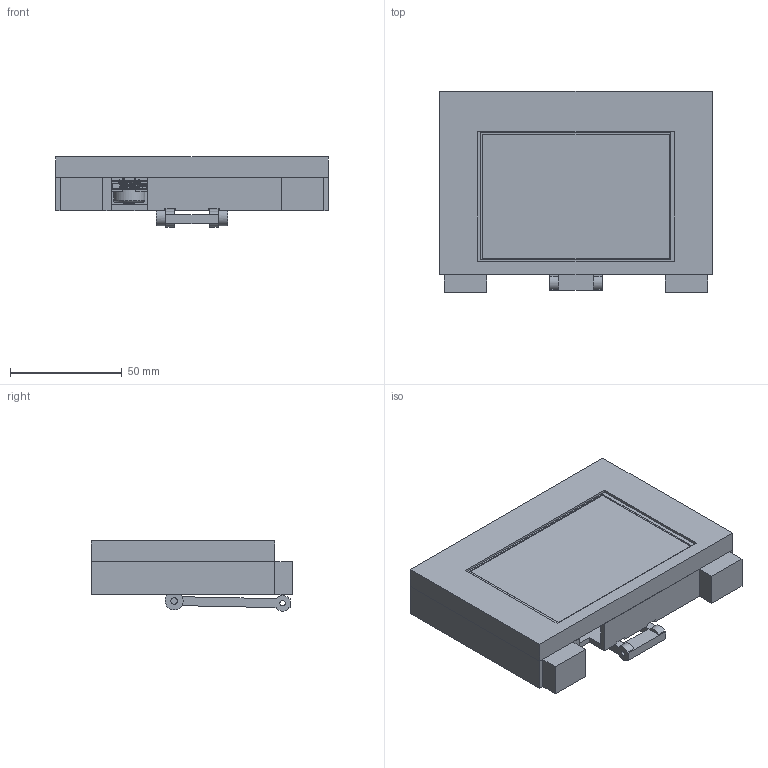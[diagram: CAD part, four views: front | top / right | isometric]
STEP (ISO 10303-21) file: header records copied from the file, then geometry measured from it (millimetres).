
FILE_DESCRIPTION(('Open CASCADE Model'),'2;1');
FILE_NAME('Open CASCADE Shape Model','2026-09-24T16:47:18',('Author'),( 'Open CASCADE'),'Open CASCADE STEP processor 8.0','Open CASCADE 8.0' ,'Unknown');
FILE_SCHEMA(('AP242_MANAGED_MODEL_BASED_3D_ENGINEERING_MIM_LF {1 0 10303 442 1 1 4 }' ));
Length unit declared in the file: millimetre
Products named in the file (4): Extended Front Cover with M2 Inserts; Single Rectangle Rear Shell; Adjustable Folding Kickstand; Two-PCB Soldered Assembly Reference
Bounding box: 122 x 90 x 31.4 mm (x, y, z)
Volume: 96527.2 mm3; surface area: 137033.5 mm2
Topology: 341 solids, 341 shells, 6117 faces, 15581 edges, 10212 vertices
Faces by surface type: plane 4440, bspline 833, cylinder 758, sphere 35, torus 26, cone 25
Full cylindrical faces by diameter (mm): 0.2 x14, 0.4 x1, 0.5 x6, 0.65 x2, 0.95 x2, 1 x11, 1.04 x14, 1.7 x1, 1.9 x1, 2 x2, 2.2 x4, 2.4 x7, 2.9 x6, 3.2 x8, 4 x2, 4.6 x4, 4.7 x4, 5.2 x1, 6.4 x7, 14 x1
Entity records: 398330 total; most frequent: CARTESIAN_POINT 90851, DIRECTION 52718, LINE 38203, VECTOR 38203, ORIENTED_EDGE 31144, PCURVE 31144, DEFINITIONAL_REPRESENTATION 31144, EDGE_CURVE 15572
